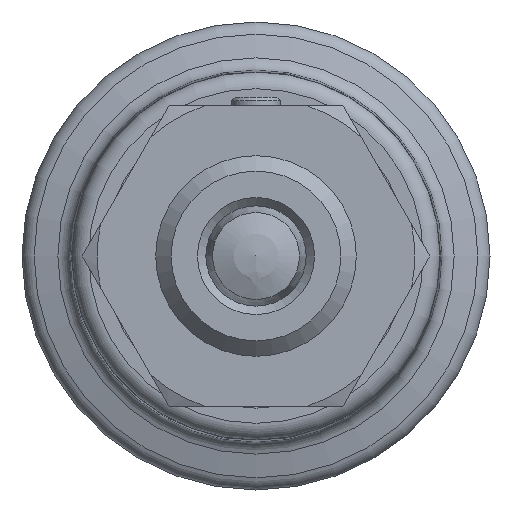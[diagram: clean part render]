
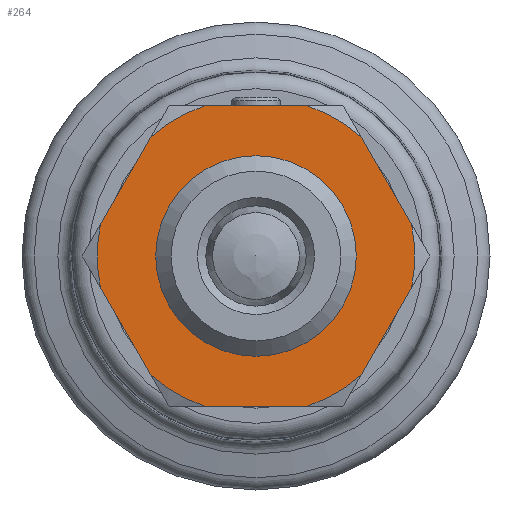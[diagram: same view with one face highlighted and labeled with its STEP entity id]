
A CAD part, left-side view. The second image highlights one B-rep face of the part: STEP entity #264.
In plain terms, the highlighted planar face has unit normal (-1, 0, 0) as drawn and (1, 0, 0) by its records, which use the part's own axes.
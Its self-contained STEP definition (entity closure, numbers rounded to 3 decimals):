
#264 = ADVANCED_FACE( '', ( #449, #450 ), #451, .F. );
#449 = FACE_BOUND( '', #654, .T. );
#450 = FACE_OUTER_BOUND( '', #655, .T. );
#451 = PLANE( '', #656 );
#654 = EDGE_LOOP( '', ( #1031 ) );
#655 = EDGE_LOOP( '', ( #1032, #1033, #1034, #1035, #1036, #1037, #1038, #1039, #1040, #1041, #1042, #1043 ) );
#656 = AXIS2_PLACEMENT_3D( '', #1044, #1045, #1046 );
#1031 = ORIENTED_EDGE( '', *, *, #1248, .F. );
#1032 = ORIENTED_EDGE( '', *, *, #1249, .T. );
#1033 = ORIENTED_EDGE( '', *, *, #1250, .T. );
#1034 = ORIENTED_EDGE( '', *, *, #1219, .T. );
#1035 = ORIENTED_EDGE( '', *, *, #1251, .T. );
#1036 = ORIENTED_EDGE( '', *, *, #1212, .T. );
#1037 = ORIENTED_EDGE( '', *, *, #1252, .T. );
#1038 = ORIENTED_EDGE( '', *, *, #1242, .T. );
#1039 = ORIENTED_EDGE( '', *, *, #1227, .T. );
#1040 = ORIENTED_EDGE( '', *, *, #1237, .T. );
#1041 = ORIENTED_EDGE( '', *, *, #1253, .T. );
#1042 = ORIENTED_EDGE( '', *, *, #1230, .T. );
#1043 = ORIENTED_EDGE( '', *, *, #1254, .T. );
#1044 = CARTESIAN_POINT( '', ( 6., 9.5, 0. ) );
#1045 = DIRECTION( '', ( -1., 0., 0. ) );
#1046 = DIRECTION( '', ( 0., 0., 1. ) );
#1212 = EDGE_CURVE( '', #1387, #1385, #1388, .T. );
#1219 = EDGE_CURVE( '', #1400, #1398, #1401, .T. );
#1227 = EDGE_CURVE( '', #1411, #1414, #1416, .T. );
#1230 = EDGE_CURVE( '', #1422, #1420, #1423, .T. );
#1237 = EDGE_CURVE( '', #1414, #1433, #1435, .T. );
#1242 = EDGE_CURVE( '', #1443, #1411, #1444, .T. );
#1248 = EDGE_CURVE( '', #1452, #1452, #1453, .T. );
#1249 = EDGE_CURVE( '', #1454, #1455, #1456, .T. );
#1250 = EDGE_CURVE( '', #1455, #1400, #1457, .T. );
#1251 = EDGE_CURVE( '', #1398, #1387, #1458, .T. );
#1252 = EDGE_CURVE( '', #1385, #1443, #1459, .T. );
#1253 = EDGE_CURVE( '', #1433, #1422, #1460, .T. );
#1254 = EDGE_CURVE( '', #1420, #1454, #1461, .T. );
#1385 = VERTEX_POINT( '', #1902 );
#1387 = VERTEX_POINT( '', #1907 );
#1388 = LINE( '', #1908, #1909 );
#1398 = VERTEX_POINT( '', #1930 );
#1400 = VERTEX_POINT( '', #1935 );
#1401 = LINE( '', #1936, #1937 );
#1411 = VERTEX_POINT( '', #1958 );
#1414 = VERTEX_POINT( '', #1964 );
#1416 = CIRCLE( '', #1969, 9.5 );
#1420 = VERTEX_POINT( '', #1974 );
#1422 = VERTEX_POINT( '', #1979 );
#1423 = LINE( '', #1980, #1981 );
#1433 = VERTEX_POINT( '', #2002 );
#1435 = LINE( '', #2007, #2008 );
#1443 = VERTEX_POINT( '', #2024 );
#1444 = LINE( '', #2025, #2026 );
#1452 = VERTEX_POINT( '', #2044 );
#1453 = CIRCLE( '', #2045, 6. );
#1454 = VERTEX_POINT( '', #2046 );
#1455 = VERTEX_POINT( '', #2047 );
#1456 = LINE( '', #2048, #2049 );
#1457 = CIRCLE( '', #2050, 9.5 );
#1458 = CIRCLE( '', #2051, 9.5 );
#1459 = CIRCLE( '', #2052, 9.5 );
#1460 = CIRCLE( '', #2053, 9.5 );
#1461 = CIRCLE( '', #2054, 9.5 );
#1902 = CARTESIAN_POINT( '', ( 6., -3.041, 9. ) );
#1907 = CARTESIAN_POINT( '', ( 6., 3.041, 9. ) );
#1908 = CARTESIAN_POINT( '', ( 6., 9.5, 9. ) );
#1909 = VECTOR( '', #2230, 1000. );
#1930 = CARTESIAN_POINT( '', ( 6., 6.274, 7.134 ) );
#1935 = CARTESIAN_POINT( '', ( 6., 9.315, 1.866 ) );
#1936 = CARTESIAN_POINT( '', ( 6., 10.169, 0.386 ) );
#1937 = VECTOR( '', #2233, 1000. );
#1958 = CARTESIAN_POINT( '', ( 6., -9.315, 1.866 ) );
#1964 = CARTESIAN_POINT( '', ( 6., -9.315, -1.866 ) );
#1969 = AXIS2_PLACEMENT_3D( '', #2236, #2237, #2238 );
#1974 = CARTESIAN_POINT( '', ( 6., 3.041, -9. ) );
#1979 = CARTESIAN_POINT( '', ( 6., -3.041, -9. ) );
#1980 = CARTESIAN_POINT( '', ( 6., 9.5, -9. ) );
#1981 = VECTOR( '', #2240, 1000. );
#2002 = CARTESIAN_POINT( '', ( 6., -6.274, -7.134 ) );
#2007 = CARTESIAN_POINT( '', ( 6., -5.419, -8.614 ) );
#2008 = VECTOR( '', #2243, 1000. );
#2024 = CARTESIAN_POINT( '', ( 6., -6.274, 7.134 ) );
#2025 = CARTESIAN_POINT( '', ( 6., -5.419, 8.614 ) );
#2026 = VECTOR( '', #2246, 1000. );
#2044 = CARTESIAN_POINT( '', ( 6., 0., -6. ) );
#2045 = AXIS2_PLACEMENT_3D( '', #2251, #2252, #2253 );
#2046 = CARTESIAN_POINT( '', ( 6., 6.274, -7.134 ) );
#2047 = CARTESIAN_POINT( '', ( 6., 9.315, -1.866 ) );
#2048 = CARTESIAN_POINT( '', ( 6., 10.169, -0.386 ) );
#2049 = VECTOR( '', #2254, 1000. );
#2050 = AXIS2_PLACEMENT_3D( '', #2255, #2256, #2257 );
#2051 = AXIS2_PLACEMENT_3D( '', #2258, #2259, #2260 );
#2052 = AXIS2_PLACEMENT_3D( '', #2261, #2262, #2263 );
#2053 = AXIS2_PLACEMENT_3D( '', #2264, #2265, #2266 );
#2054 = AXIS2_PLACEMENT_3D( '', #2267, #2268, #2269 );
#2230 = DIRECTION( '', ( 0., -1., 0. ) );
#2233 = DIRECTION( '', ( 0., -0.5, 0.866 ) );
#2236 = CARTESIAN_POINT( '', ( 6., 0., 0. ) );
#2237 = DIRECTION( '', ( 1., 0., 0. ) );
#2238 = DIRECTION( '', ( 0., 0., -1. ) );
#2240 = DIRECTION( '', ( 0., 1., 0. ) );
#2243 = DIRECTION( '', ( 0., 0.5, -0.866 ) );
#2246 = DIRECTION( '', ( 0., -0.5, -0.866 ) );
#2251 = CARTESIAN_POINT( '', ( 6., 0., 0. ) );
#2252 = DIRECTION( '', ( 1., 0., 0. ) );
#2253 = DIRECTION( '', ( 0., 0., -1. ) );
#2254 = DIRECTION( '', ( 0., 0.5, 0.866 ) );
#2255 = CARTESIAN_POINT( '', ( 6., 0., 0. ) );
#2256 = DIRECTION( '', ( 1., 0., 0. ) );
#2257 = DIRECTION( '', ( 0., 0., -1. ) );
#2258 = CARTESIAN_POINT( '', ( 6., 0., 0. ) );
#2259 = DIRECTION( '', ( 1., 0., 0. ) );
#2260 = DIRECTION( '', ( 0., 0., -1. ) );
#2261 = CARTESIAN_POINT( '', ( 6., 0., 0. ) );
#2262 = DIRECTION( '', ( 1., 0., 0. ) );
#2263 = DIRECTION( '', ( 0., 0., -1. ) );
#2264 = CARTESIAN_POINT( '', ( 6., 0., 0. ) );
#2265 = DIRECTION( '', ( 1., 0., 0. ) );
#2266 = DIRECTION( '', ( 0., 0., -1. ) );
#2267 = CARTESIAN_POINT( '', ( 6., 0., 0. ) );
#2268 = DIRECTION( '', ( 1., 0., 0. ) );
#2269 = DIRECTION( '', ( 0., 0., -1. ) );
